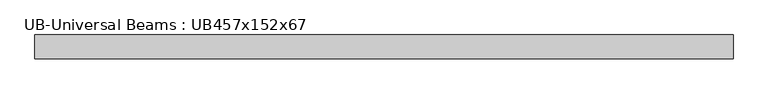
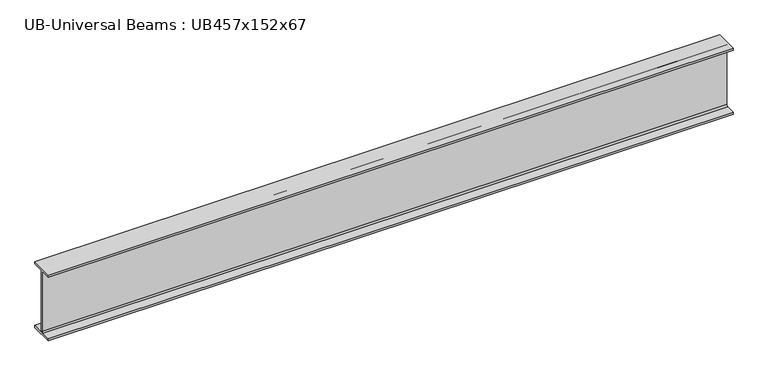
"""IFC4 building model written with IfcOpenShell, lengths in millimetres: beam geometry, UB-Universal Beams : UB457x152x67."""

import ifcopenshell
import ifcopenshell.guid

model = None  # the IFC model being written
_history = None  # IfcOwnerHistory: only IFC2X3 demands one
_inside = {}  # id of a spatial element -> (the spatial element, [elements in it])
_under = {}  # id of a project, library or spatial element -> (it, [spatial elements below it])
_declared = {}  # id of a project -> (the project, [libraries it declares])
_typed = {}  # id of a type object -> (the type object, [elements of that type])
_made_of = {}  # id of a material, layer set ... -> (it, [elements and type objects made of it])


def new_model(schema):
    """Start an empty IFC model of exactly this schema.

    Asked for "IFC4X3", IfcOpenShell would pick the latest addendum, in which some entities
    have other attributes; the version numbers below select the first issue.
    IFC2X3 requires an IfcOwnerHistory on every rooted entity: one is made here for all.
    """
    global model, _history
    if schema == "IFC4X3":
        model = ifcopenshell.file(schema_version=(4, 3, 0, 0))
    else:
        model = ifcopenshell.file(schema=schema)
    _inside.clear()
    _under.clear()
    _declared.clear()
    _typed.clear()
    _made_of.clear()
    _history = None
    if model.schema == "IFC2X3":
        org = make("IfcOrganization", Name="unknown")
        user = make(
            "IfcPersonAndOrganization",
            ThePerson=make("IfcPerson", FamilyName="unknown"),
            TheOrganization=org,
        )
        app = make(
            "IfcApplication",
            ApplicationDeveloper=org,
            Version="unknown",
            ApplicationFullName="unknown",
            ApplicationIdentifier="unknown",
        )
        _history = make(
            "IfcOwnerHistory",
            OwningUser=user,
            OwningApplication=app,
            ChangeAction="ADDED",
            CreationDate=0,
        )
    return model


def make(cls, **values):
    """One entity of the class cls with the attributes given. An attribute that is None is left unset."""
    return model.create_entity(
        cls, **{name: value for name, value in values.items() if value is not None}
    )


def rooted(cls, **values):
    """An entity with a GlobalId (a new one), such as an element, a storey or a relation."""
    return make(cls, GlobalId=ifcopenshell.guid.new(), OwnerHistory=_history, **values)


def si_unit(unit_type, name, prefix=None):
    """IfcSIUnit, for example si_unit("LENGTHUNIT", "METRE", prefix="MILLI")."""
    return make("IfcSIUnit", UnitType=unit_type, Prefix=prefix, Name=name)


def assignment(units):
    """IfcUnitAssignment: the units of a project."""
    return None if units is None else make("IfcUnitAssignment", Units=units)


def point(xyz):
    """IfcCartesianPoint."""
    return None if xyz is None else make("IfcCartesianPoint", Coordinates=xyz)


def direction(xyz):
    """IfcDirection."""
    return None if xyz is None else make("IfcDirection", DirectionRatios=xyz)


def frame(location, z_axis=None, x_axis=None):
    """IfcAxis2Placement3D, a coordinate frame: its origin and axes. An axis left out is left unset."""
    return make(
        "IfcAxis2Placement3D",
        Location=point(location),
        Axis=direction(z_axis),
        RefDirection=direction(x_axis),
    )


def frame_2d(location, x_axis=None):
    """IfcAxis2Placement2D, a coordinate frame in the plane: its origin and x axis."""
    return make(
        "IfcAxis2Placement2D", Location=point(location), RefDirection=direction(x_axis)
    )


def origin():
    """The frame at (0, 0, 0) with its axes left unset."""
    return frame((0.0, 0.0, 0.0))


def place(relative_to, where):
    """IfcLocalPlacement: puts the frame where relative to a parent placement (None: the world)."""
    return make(
        "IfcLocalPlacement", PlacementRelTo=relative_to, RelativePlacement=where
    )


def context(
    kind, dimensions, precision=None, world=None, true_north=None, identifier=None
):
    """IfcGeometricRepresentationContext, for example the 3D "Model" context."""
    return make(
        "IfcGeometricRepresentationContext",
        ContextIdentifier=identifier,
        ContextType=kind,
        CoordinateSpaceDimension=dimensions,
        Precision=precision,
        WorldCoordinateSystem=world,
        TrueNorth=true_north,
    )


def project(units=None, contexts=None):
    """IfcProject with its units and contexts."""
    return rooted(
        "IfcProject",
        Name="project",
        RepresentationContexts=contexts,
        UnitsInContext=assignment(units),
    )


def spatial(cls, under=None, at=None, **own):
    """A site, building, storey or space (cls), placed at a placement, below another one or the project."""
    s = rooted(cls, ObjectPlacement=at, **own)
    if under is not None:
        _under.setdefault(under.id(), (under, []))[1].append(s)
    return s


def polyline(points):
    """IfcPolyline through the points."""
    return make("IfcPolyline", Points=[point(p) for p in points])


def circle_curve(where, radius):
    """IfcCircle in the frame where."""
    return make("IfcCircle", Position=where, Radius=radius)


def trimmed(basis, trim1, trim2, sense, master):
    """IfcTrimmedCurve: the piece of a basis curve between two trims."""
    return make(
        "IfcTrimmedCurve",
        BasisCurve=basis,
        Trim1=trim1,
        Trim2=trim2,
        SenseAgreement=sense,
        MasterRepresentation=master,
    )


def segment(curve, same_sense, transition):
    """IfcCompositeCurveSegment."""
    return make(
        "IfcCompositeCurveSegment",
        Transition=transition,
        SameSense=same_sense,
        ParentCurve=curve,
    )


def composite_curve(segments, self_intersect=None):
    """IfcCompositeCurve: segments joined end to end."""
    return make("IfcCompositeCurve", Segments=segments, SelfIntersect=self_intersect)


def outline(outer, holes=None, kind="AREA"):
    """IfcArbitraryClosedProfileDef: a profile drawn as a closed curve; with holes, ...WithVoids."""
    if holes is None:
        return make("IfcArbitraryClosedProfileDef", ProfileType=kind, OuterCurve=outer)
    return make(
        "IfcArbitraryProfileDefWithVoids",
        ProfileType=kind,
        OuterCurve=outer,
        InnerCurves=holes,
    )


def extrude(swept, where, along, depth):
    """IfcExtrudedAreaSolid: the profile swept, set in the frame where, extruded along a direction by depth."""
    return make(
        "IfcExtrudedAreaSolid",
        SweptArea=swept,
        Position=where,
        ExtrudedDirection=direction(along),
        Depth=depth,
    )


def shape(context_of_items, identifier, shape_type, items):
    """IfcShapeRepresentation: the items that make up one representation, for example the "Body"."""
    return make(
        "IfcShapeRepresentation",
        ContextOfItems=context_of_items,
        RepresentationIdentifier=identifier,
        RepresentationType=shape_type,
        Items=items,
    )


def source(mapping_origin, context_of_items, identifier, shape_type, items):
    """IfcRepresentationMap: a shape defined once, which mapped items show again and again."""
    return make(
        "IfcRepresentationMap",
        MappingOrigin=mapping_origin,
        MappedRepresentation=shape(context_of_items, identifier, shape_type, items),
    )


def transform(
    local_origin,
    x_axis=None,
    y_axis=None,
    z_axis=None,
    scale=None,
    scale2=None,
    scale3=None,
    uniform=True,
):
    """IfcCartesianTransformationOperator3D, or its non-uniform kind. x_axis, y_axis, z_axis: its Axis1, 2, 3."""
    if uniform:
        return make(
            "IfcCartesianTransformationOperator3D",
            Axis1=direction(x_axis),
            Axis2=direction(y_axis),
            LocalOrigin=point(local_origin),
            Scale=scale,
            Axis3=direction(z_axis),
        )
    return make(
        "IfcCartesianTransformationOperator3DnonUniform",
        Axis1=direction(x_axis),
        Axis2=direction(y_axis),
        LocalOrigin=point(local_origin),
        Scale=scale,
        Axis3=direction(z_axis),
        Scale2=scale2,
        Scale3=scale3,
    )


def mapped(mapping_source, mapping_target):
    """IfcMappedItem: shows the shape of a source again, moved by a transform."""
    return make(
        "IfcMappedItem", MappingSource=mapping_source, MappingTarget=mapping_target
    )


def made_of(thing, what):
    """Note that an element or type object is made of a material, layer set ...; save() writes the relation."""
    if what is not None:
        _made_of.setdefault(what.id(), (what, []))[1].append(thing)
    return thing


def element(
    cls,
    number,
    at=None,
    inside=None,
    cuts=None,
    type_object=None,
    material=None,
    context=None,
    identifier="Body",
    shape_type=None,
    held_by="IfcProductDefinitionShape",
    body=None,
    shapes=None,
    **own,
):
    """One element of the class cls, such as IfcWall. Its Tag is "e" and its number.

    at: its placement. inside: the storey or other place that contains it. cuts: it is an
    opening in that element (IfcRelVoidsElement). A single representation is given by context,
    identifier, shape_type and body (its items); several are given by shapes. held_by: the class
    of the entity that holds the representations. save() writes the other relations.
    """
    e = rooted(cls, Tag="e%d" % number, ObjectPlacement=at, **own)
    if body is not None:
        shapes = [shape(context, identifier, shape_type, body)]
    if shapes is not None:
        e.Representation = make(held_by, Representations=shapes)
    if inside is not None:
        _inside.setdefault(inside.id(), (inside, []))[1].append(e)
    if cuts is not None:
        rooted(
            "IfcRelVoidsElement", RelatingBuildingElement=cuts, RelatedOpeningElement=e
        )
    if type_object is not None:
        _typed.setdefault(type_object.id(), (type_object, []))[1].append(e)
    return made_of(e, material)


def aggregate(whole, parts):
    """IfcRelAggregates: a whole, such as a stair, and the parts it consists of."""
    return rooted("IfcRelAggregates", RelatingObject=whole, RelatedObjects=parts)


def save(model, path):
    """Write the relations noted so far, then the file.

    IfcRelAggregates (storeys below a building ...), IfcRelContainedInSpatialStructure (elements
    in a storey), IfcRelDefinesByType, IfcRelAssociatesMaterial and IfcRelDeclares: one each for
    every whole, place, type object, material and project.
    """
    for whole, parts in _under.values():
        aggregate(whole, parts)
    for where, things in _inside.values():
        rooted(
            "IfcRelContainedInSpatialStructure",
            RelatedElements=things,
            RelatingStructure=where,
        )
    for kind, things in _typed.values():
        rooted("IfcRelDefinesByType", RelatedObjects=things, RelatingType=kind)
    for what, things in _made_of.values():
        rooted("IfcRelAssociatesMaterial", RelatedObjects=things, RelatingMaterial=what)
    for by, libraries in _declared.values():
        rooted("IfcRelDeclares", RelatingContext=by, RelatedDefinitions=libraries)
    model.write(path)


def ub_universal_beams_ub457x152x67_2e62ce28(model_context):
    return source(origin(), model_context, "Body", "SweptSolid", [
        extrude(outline(composite_curve([segment(polyline([(76.9, -214.0), (76.9, -229.0), (-76.9, -229.0), (-76.9, -214.0), (-14.7, -214.0)]), True, "CONTINUOUS"), segment(trimmed(circle_curve(frame_2d((-14.7, -203.8)), 10.2), [point((-14.7, -214.0))], [point((-4.5, -203.8))], True, "CARTESIAN"), True, "CONTINUOUS"), segment(polyline([(-4.5, -203.8), (-4.5, 203.8)]), True, "CONTINUOUS"), segment(trimmed(circle_curve(frame_2d((-14.7, 203.8)), 10.2), [point((-4.5, 203.8))], [point((-14.7, 214.0))], True, "CARTESIAN"), True, "CONTINUOUS"), segment(polyline([(-14.7, 214.0), (-76.9, 214.0), (-76.9, 229.0), (76.9, 229.0), (76.9, 214.0), (14.7, 214.0)]), True, "CONTINUOUS"), segment(trimmed(circle_curve(frame_2d((14.7, 203.8)), 10.2), [point((14.7, 214.0))], [point((4.5, 203.8))], True, "CARTESIAN"), True, "CONTINUOUS"), segment(polyline([(4.5, 203.8), (4.5, -203.8)]), True, "CONTINUOUS"), segment(trimmed(circle_curve(frame_2d((14.7, -203.8)), 10.2), [point((4.5, -203.8))], [point((14.7, -214.0))], True, "CARTESIAN"), True, "CONTINUOUS"), segment(polyline([(14.7, -214.0), (76.9, -214.0)]), True, "CONTINUOUS")], self_intersect=False)), frame((-2162.9, 0.0, 0.0), z_axis=(1.0, 0.0, 0.0), x_axis=(0.0, 1.0, 0.0)), (0.0, 0.0, 1.0), 4500.2),
    ])


if __name__ == "__main__":
    model = new_model("IFC4")
    model_context = context("Model", 3, world=origin())
    ifc_project = project(units=[si_unit("LENGTHUNIT", "METRE", prefix="MILLI")], contexts=[model_context])
    site = spatial("IfcSite", under=ifc_project)
    building = spatial("IfcBuilding", under=site)
    placement = place(None, origin())
    ub_universal_beams_ub457x152x67_shape = ub_universal_beams_ub457x152x67_2e62ce28(model_context)
    element("IfcBeam", 1, ObjectType="UB-Universal Beams : UB457x152x67", at=placement, inside=building, context=model_context, shape_type="MappedRepresentation", body=[
        mapped(ub_universal_beams_ub457x152x67_shape, transform((0.0, 0.0, 0.0), x_axis=(1.0, 0.0, 0.0), y_axis=(0.0, 1.0, 0.0), z_axis=(0.0, 0.0, 1.0))),
    ])
    save(model, "model.ifc")
